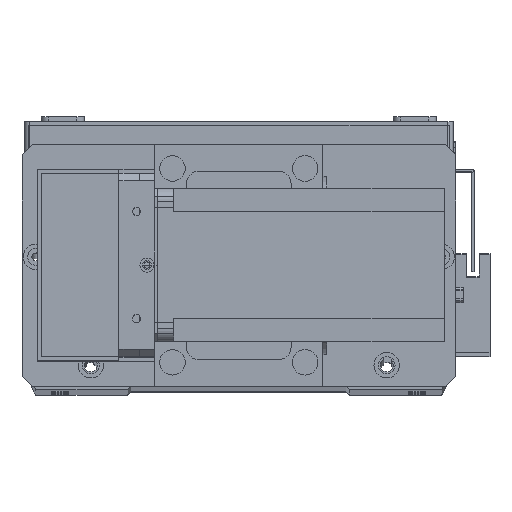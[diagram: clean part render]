
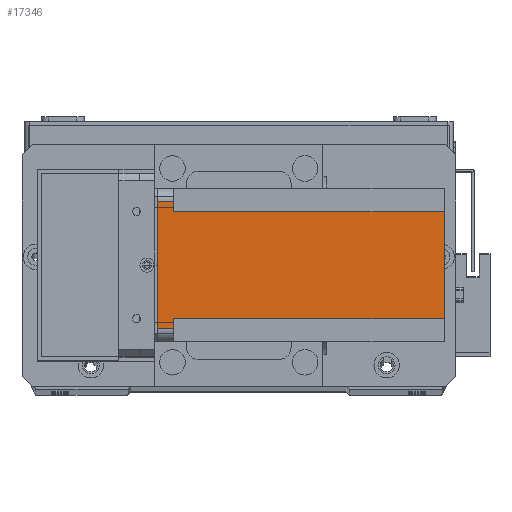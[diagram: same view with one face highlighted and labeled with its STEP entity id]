
A CAD part, top view. The second image highlights one B-rep face of the part: STEP entity #17346.
In plain terms, the highlighted planar face has unit normal (0, 0, 1) as drawn and (-1, 0, 0) by its records, which use the part's own axes.
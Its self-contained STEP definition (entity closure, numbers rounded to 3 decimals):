
#78 = VECTOR ( 'NONE', #328, 1000. ) ;
#328 = DIRECTION ( 'NONE',  ( 0., -1., 0. ) ) ;
#361 = DIRECTION ( 'NONE',  ( 0., 0., -1. ) ) ;
#430 = VECTOR ( 'NONE', #679, 1000. ) ;
#679 = DIRECTION ( 'NONE',  ( 0., 0., 1. ) ) ;
#1160 = LINE ( 'NONE', #5996, #11249 ) ;
#1461 = VERTEX_POINT ( 'NONE', #2085 ) ;
#1708 = PLANE ( 'NONE',  #1916 ) ;
#1916 = AXIS2_PLACEMENT_3D ( 'NONE', #23956, #4221, #21583 ) ;
#2085 = CARTESIAN_POINT ( 'NONE',  ( 0., 5., 0. ) ) ;
#2198 = VERTEX_POINT ( 'NONE', #9554 ) ;
#2613 = VERTEX_POINT ( 'NONE', #4716 ) ;
#2660 = CARTESIAN_POINT ( 'NONE',  ( 0., 60., -6.5 ) ) ;
#4221 = DIRECTION ( 'NONE',  ( -1., 0., 0. ) ) ;
#4716 = CARTESIAN_POINT ( 'NONE',  ( 0., 51., -6.5 ) ) ;
#4805 = EDGE_CURVE ( 'NONE', #2198, #1461, #7801, .T. ) ;
#5206 = EDGE_LOOP ( 'NONE', ( #18697, #11128, #19937, #19392, #16492, #21555, #10762, #24665 ) ) ;
#5735 = VERTEX_POINT ( 'NONE', #16944 ) ;
#5996 = CARTESIAN_POINT ( 'NONE',  ( 0., 0., -6.5 ) ) ;
#6595 = LINE ( 'NONE', #8956, #31381 ) ;
#7388 = EDGE_CURVE ( 'NONE', #9588, #5735, #16645, .T. ) ;
#7629 = VERTEX_POINT ( 'NONE', #9030 ) ;
#7801 = LINE ( 'NONE', #13057, #430 ) ;
#8231 = LINE ( 'NONE', #18259, #20674 ) ;
#8956 = CARTESIAN_POINT ( 'NONE',  ( 0., 55., -112.5 ) ) ;
#9030 = CARTESIAN_POINT ( 'NONE',  ( 0., 55., 0. ) ) ;
#9417 = EDGE_CURVE ( 'NONE', #7629, #25881, #6595, .T. ) ;
#9554 = CARTESIAN_POINT ( 'NONE',  ( 0., 5., -6.5 ) ) ;
#9588 = VERTEX_POINT ( 'NONE', #15056 ) ;
#10430 = EDGE_CURVE ( 'NONE', #2198, #9588, #1160, .T. ) ;
#10762 = ORIENTED_EDGE ( 'NONE', *, *, #22949, .T. ) ;
#10826 = VECTOR ( 'NONE', #361, 1000. ) ;
#11128 = ORIENTED_EDGE ( 'NONE', *, *, #4805, .T. ) ;
#11249 = VECTOR ( 'NONE', #30793, 1000. ) ;
#12764 = DIRECTION ( 'NONE',  ( 0., 1., 0. ) ) ;
#13057 = CARTESIAN_POINT ( 'NONE',  ( 0., 5., -112.5 ) ) ;
#14924 = DIRECTION ( 'NONE',  ( 0., -1., 0. ) ) ;
#15056 = CARTESIAN_POINT ( 'NONE',  ( 0., 9., -6.5 ) ) ;
#15224 = CARTESIAN_POINT ( 'NONE',  ( 0., 9., -112.5 ) ) ;
#16492 = ORIENTED_EDGE ( 'NONE', *, *, #17790, .F. ) ;
#16645 = LINE ( 'NONE', #15224, #10826 ) ;
#16882 = CARTESIAN_POINT ( 'NONE',  ( 0., 55., -6.5 ) ) ;
#16919 = VECTOR ( 'NONE', #14924, 1000. ) ;
#16944 = CARTESIAN_POINT ( 'NONE',  ( 0., 9., -112.5 ) ) ;
#17346 = ADVANCED_FACE ( 'NONE', ( #18663 ), #1708, .T. ) ;
#17790 = EDGE_CURVE ( 'NONE', #2613, #25881, #17831, .T. ) ;
#17831 = LINE ( 'NONE', #2660, #30229 ) ;
#18259 = CARTESIAN_POINT ( 'NONE',  ( 0., 51., -112.5 ) ) ;
#18663 = FACE_OUTER_BOUND ( 'NONE', #5206, .T. ) ;
#18697 = ORIENTED_EDGE ( 'NONE', *, *, #10430, .F. ) ;
#19081 = LINE ( 'NONE', #20186, #78 ) ;
#19392 = ORIENTED_EDGE ( 'NONE', *, *, #9417, .T. ) ;
#19937 = ORIENTED_EDGE ( 'NONE', *, *, #28541, .F. ) ;
#20186 = CARTESIAN_POINT ( 'NONE',  ( 0., 0., -112.5 ) ) ;
#20674 = VECTOR ( 'NONE', #28204, 1000. ) ;
#21555 = ORIENTED_EDGE ( 'NONE', *, *, #30694, .F. ) ;
#21583 = DIRECTION ( 'NONE',  ( 0., -1., 0. ) ) ;
#22200 = CARTESIAN_POINT ( 'NONE',  ( 0., 0., 0. ) ) ;
#22949 = EDGE_CURVE ( 'NONE', #28561, #5735, #19081, .T. ) ;
#23956 = CARTESIAN_POINT ( 'NONE',  ( 0., 0., -112.5 ) ) ;
#24665 = ORIENTED_EDGE ( 'NONE', *, *, #7388, .F. ) ;
#24875 = CARTESIAN_POINT ( 'NONE',  ( 0., 51., -112.5 ) ) ;
#25881 = VERTEX_POINT ( 'NONE', #16882 ) ;
#28204 = DIRECTION ( 'NONE',  ( 0., 0., 1. ) ) ;
#28541 = EDGE_CURVE ( 'NONE', #7629, #1461, #30077, .T. ) ;
#28561 = VERTEX_POINT ( 'NONE', #24875 ) ;
#28757 = DIRECTION ( 'NONE',  ( 0., 0., -1. ) ) ;
#30077 = LINE ( 'NONE', #22200, #16919 ) ;
#30229 = VECTOR ( 'NONE', #12764, 1000. ) ;
#30694 = EDGE_CURVE ( 'NONE', #28561, #2613, #8231, .T. ) ;
#30793 = DIRECTION ( 'NONE',  ( 0., 1., 0. ) ) ;
#31381 = VECTOR ( 'NONE', #28757, 1000. ) ;
